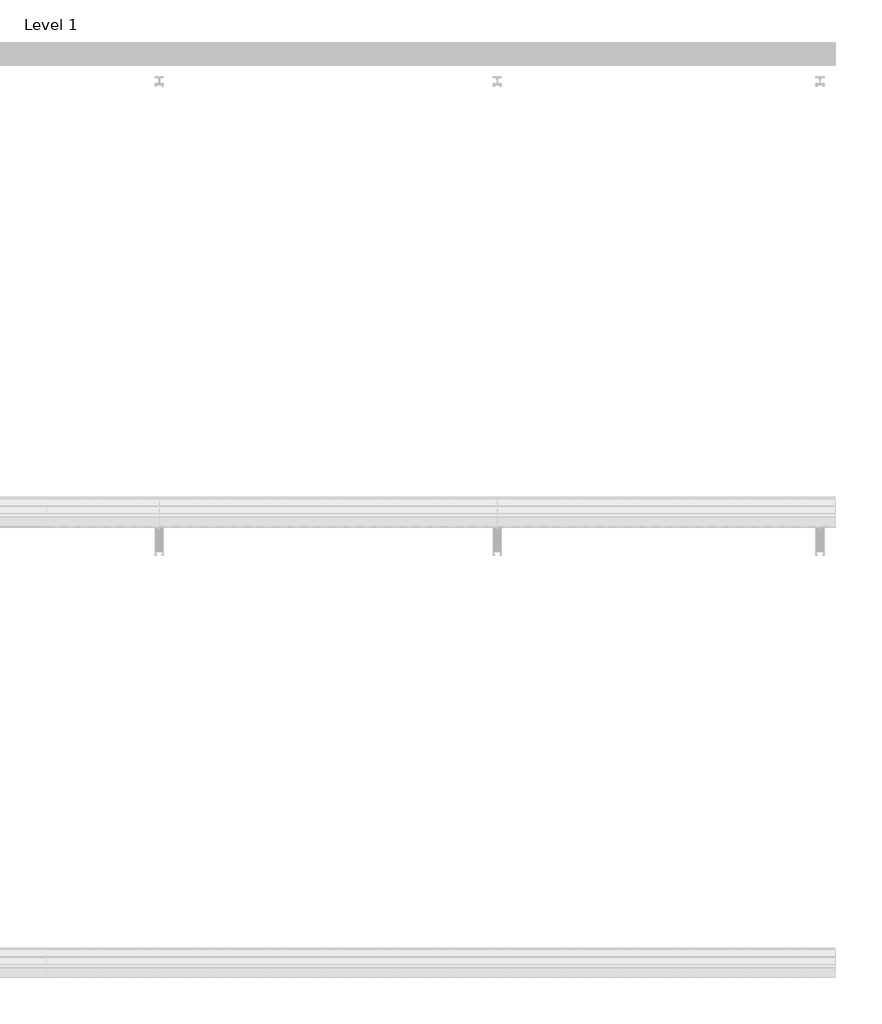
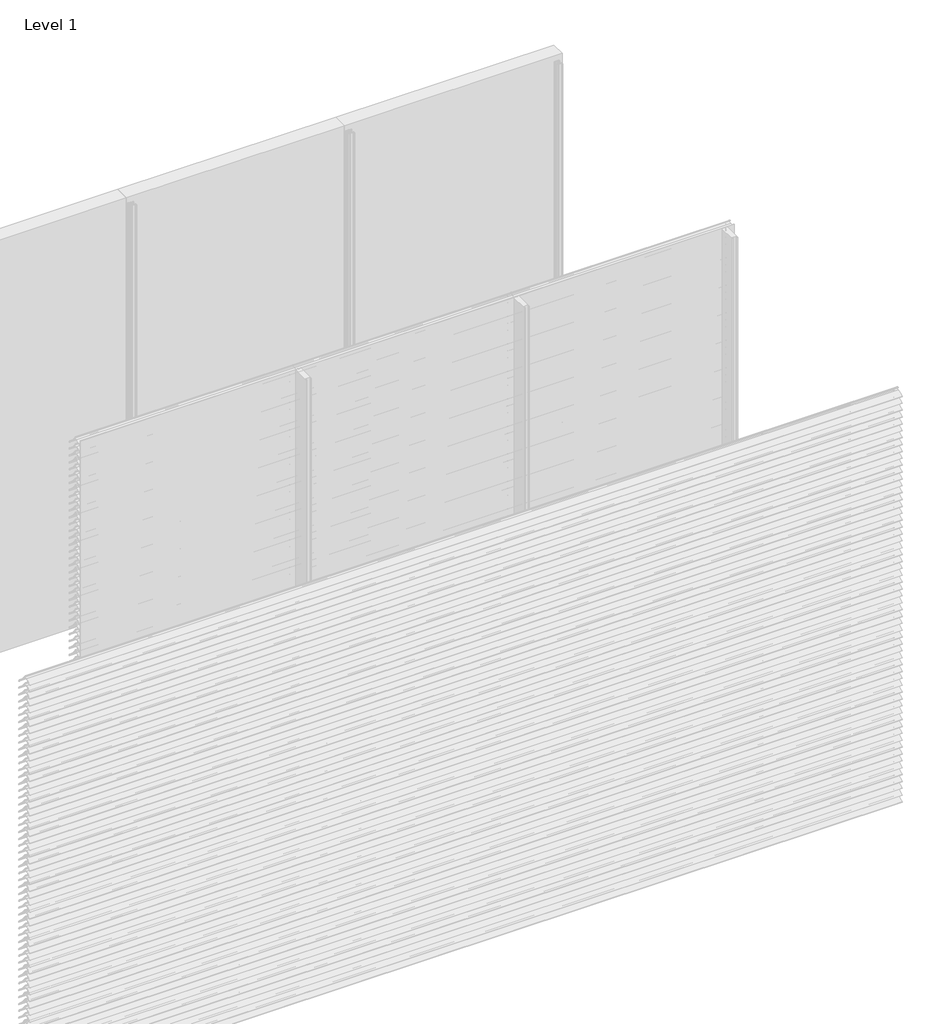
# One storey, part 36 of 173: 18 proxies.
"""IFC4 building model written with IfcOpenShell, lengths in millimetres."""

from ifc_helpers import new_model, si_unit, point, frame, frame_2d, origin, place, context, project, spatial, polyline, circle_curve, trimmed, segment, composite_curve, outline, extrude, element, save

model = new_model("IFC4")

# Units and contexts
model_context = context("Model", 3, world=origin())
ifc_project = project(units=[si_unit("LENGTHUNIT", "METRE", prefix="MILLI")], contexts=[model_context])

# Site, building, storey
site = spatial("IfcSite", under=ifc_project)
building = spatial("IfcBuilding", under=site)
storey = spatial("IfcBuildingStorey", under=building, Name="Level 1", Elevation=0.0)

# Proxies
placement = place(None, origin())
element("IfcBuildingElementProxy", 1, Name="Wall Sweeps", at=placement, inside=storey, context=model_context, shape_type="SweptSolid", body=[
    extrude(outline(composite_curve([segment(polyline([(-47998.0, 1109.1474905), (-47998.0, 1111.6227417)]), True, "CONTINUOUS"), segment(trimmed(circle_curve(frame_2d((-47951.2682172, 1066.2200208)), 65.1557103), [point((-47998.0, 1111.6227417))], [point((-47954.4014323, 1131.3003524))], False, "CARTESIAN"), True, "CONTINUOUS"), segment(polyline([(-47954.4014323, 1131.3003524), (-47934.8315836, 1131.3003524)]), True, "CONTINUOUS"), segment(trimmed(circle_curve(frame_2d((-47732.7329489, 1278.5533172)), 250.0545817), [point((-47934.8315836, 1131.3003524))], [point((-47941.4452143, 1140.8344583))], False, "CARTESIAN"), True, "CONTINUOUS"), segment(trimmed(circle_curve(frame_2d((-47953.2981792, 1135.1737835)), 13.1352966), [point((-47941.4452143, 1140.8344583))], [point((-47953.8171475, 1148.298824))], True, "CARTESIAN"), True, "CONTINUOUS"), segment(polyline([(-47953.8171475, 1148.298824), (-47953.8171475, 1150.0)]), True, "CONTINUOUS"), segment(trimmed(circle_curve(frame_2d((-47953.2981792, 1135.1737835)), 14.8352966), [point((-47953.8171475, 1150.0))], [point((-47939.9637661, 1141.6760487))], False, "CARTESIAN"), True, "CONTINUOUS"), segment(trimmed(circle_curve(frame_2d((-47732.7329489, 1278.5533172)), 248.3545817), [point((-47939.9637661, 1141.6760487))], [point((-47873.8787895, 1074.2059416))], True, "CARTESIAN"), True, "CONTINUOUS"), segment(trimmed(circle_curve(frame_2d((-47883.8147537, 1061.6649442)), 16.0), [point((-47873.8787895, 1074.2059416))], [point((-47867.8648347, 1060.4))], False, "CARTESIAN"), True, "CONTINUOUS"), segment(polyline([(-47867.8648347, 1060.4), (-47869.6712069, 1060.4)]), True, "CONTINUOUS"), segment(trimmed(circle_curve(frame_2d((-47883.8147537, 1061.6649442)), 14.2), [point((-47869.6712069, 1060.4))], [point((-47874.9518628, 1072.7594998))], True, "CARTESIAN"), True, "CONTINUOUS"), segment(trimmed(circle_curve(frame_2d((-47732.7329489, 1278.5533172)), 250.1545817), [point((-47874.9518628, 1072.7594998))], [point((-47933.7064024, 1129.6003524))], False, "CARTESIAN"), True, "CONTINUOUS"), segment(polyline([(-47933.7064024, 1129.6003524), (-47954.3602632, 1129.6003524)]), True, "CONTINUOUS"), segment(trimmed(circle_curve(frame_2d((-47951.2682172, 1066.2200208)), 63.4557103), [point((-47954.3602632, 1129.6003524))], [point((-47998.0, 1109.1474905))], True, "CARTESIAN"), True, "CONTINUOUS")], self_intersect=False)), frame((4500.0, 0.0, 0.0), z_axis=(1.0, 0.0, 0.0), x_axis=(0.0, 1.0, 0.0)), (0.0, 0.0, 1.0), 1500.0),
])
element("IfcBuildingElementProxy", 2, Name="Wall Sweeps", at=placement, inside=storey, context=model_context, shape_type="SweptSolid", body=[
    extrude(outline(composite_curve([segment(polyline([(-47998.0, 1059.1474905), (-47998.0, 1061.6227417)]), True, "CONTINUOUS"), segment(trimmed(circle_curve(frame_2d((-47951.2682172, 1016.2200208)), 65.1557103), [point((-47998.0, 1061.6227417))], [point((-47954.4014323, 1081.3003524))], False, "CARTESIAN"), True, "CONTINUOUS"), segment(polyline([(-47954.4014323, 1081.3003524), (-47934.8315836, 1081.3003524)]), True, "CONTINUOUS"), segment(trimmed(circle_curve(frame_2d((-47732.7329489, 1228.5533172)), 250.0545817), [point((-47934.8315836, 1081.3003524))], [point((-47941.4452143, 1090.8344583))], False, "CARTESIAN"), True, "CONTINUOUS"), segment(trimmed(circle_curve(frame_2d((-47953.2981792, 1085.1737835)), 13.1352966), [point((-47941.4452143, 1090.8344583))], [point((-47953.8171475, 1098.298824))], True, "CARTESIAN"), True, "CONTINUOUS"), segment(polyline([(-47953.8171475, 1098.298824), (-47953.8171475, 1100.0)]), True, "CONTINUOUS"), segment(trimmed(circle_curve(frame_2d((-47953.2981792, 1085.1737835)), 14.8352966), [point((-47953.8171475, 1100.0))], [point((-47939.9637661, 1091.6760487))], False, "CARTESIAN"), True, "CONTINUOUS"), segment(trimmed(circle_curve(frame_2d((-47732.7329489, 1228.5533172)), 248.3545817), [point((-47939.9637661, 1091.6760487))], [point((-47873.8787895, 1024.2059416))], True, "CARTESIAN"), True, "CONTINUOUS"), segment(trimmed(circle_curve(frame_2d((-47883.8147537, 1011.6649442)), 16.0), [point((-47873.8787895, 1024.2059416))], [point((-47867.8648347, 1010.4))], False, "CARTESIAN"), True, "CONTINUOUS"), segment(polyline([(-47867.8648347, 1010.4), (-47869.6712069, 1010.4)]), True, "CONTINUOUS"), segment(trimmed(circle_curve(frame_2d((-47883.8147537, 1011.6649442)), 14.2), [point((-47869.6712069, 1010.4))], [point((-47874.9518628, 1022.7594998))], True, "CARTESIAN"), True, "CONTINUOUS"), segment(trimmed(circle_curve(frame_2d((-47732.7329489, 1228.5533172)), 250.1545817), [point((-47874.9518628, 1022.7594998))], [point((-47933.7064024, 1079.6003524))], False, "CARTESIAN"), True, "CONTINUOUS"), segment(polyline([(-47933.7064024, 1079.6003524), (-47954.3602632, 1079.6003524)]), True, "CONTINUOUS"), segment(trimmed(circle_curve(frame_2d((-47951.2682172, 1016.2200208)), 63.4557103), [point((-47954.3602632, 1079.6003524))], [point((-47998.0, 1059.1474905))], True, "CARTESIAN"), True, "CONTINUOUS")], self_intersect=False)), frame((4500.0, 0.0, 0.0), z_axis=(1.0, 0.0, 0.0), x_axis=(0.0, 1.0, 0.0)), (0.0, 0.0, 1.0), 1500.0),
])
element("IfcBuildingElementProxy", 3, Name="Wall Sweeps", at=placement, inside=storey, context=model_context, shape_type="SweptSolid", body=[
    extrude(outline(composite_curve([segment(polyline([(-47998.0, 1009.1474905), (-47998.0, 1011.6227417)]), True, "CONTINUOUS"), segment(trimmed(circle_curve(frame_2d((-47951.2682172, 966.2200208)), 65.1557103), [point((-47998.0, 1011.6227417))], [point((-47954.4014323, 1031.3003524))], False, "CARTESIAN"), True, "CONTINUOUS"), segment(polyline([(-47954.4014323, 1031.3003524), (-47934.8315836, 1031.3003524)]), True, "CONTINUOUS"), segment(trimmed(circle_curve(frame_2d((-47732.7329489, 1178.5533172)), 250.0545817), [point((-47934.8315836, 1031.3003524))], [point((-47941.4452143, 1040.8344583))], False, "CARTESIAN"), True, "CONTINUOUS"), segment(trimmed(circle_curve(frame_2d((-47953.2981792, 1035.1737835)), 13.1352966), [point((-47941.4452143, 1040.8344583))], [point((-47953.8171475, 1048.298824))], True, "CARTESIAN"), True, "CONTINUOUS"), segment(polyline([(-47953.8171475, 1048.298824), (-47953.8171475, 1050.0)]), True, "CONTINUOUS"), segment(trimmed(circle_curve(frame_2d((-47953.2981792, 1035.1737835)), 14.8352966), [point((-47953.8171475, 1050.0))], [point((-47939.9637661, 1041.6760487))], False, "CARTESIAN"), True, "CONTINUOUS"), segment(trimmed(circle_curve(frame_2d((-47732.7329489, 1178.5533172)), 248.3545817), [point((-47939.9637661, 1041.6760487))], [point((-47873.8787895, 974.2059416))], True, "CARTESIAN"), True, "CONTINUOUS"), segment(trimmed(circle_curve(frame_2d((-47883.8147537, 961.6649442)), 16.0), [point((-47873.8787895, 974.2059416))], [point((-47867.8648347, 960.4))], False, "CARTESIAN"), True, "CONTINUOUS"), segment(polyline([(-47867.8648347, 960.4), (-47869.6712069, 960.4)]), True, "CONTINUOUS"), segment(trimmed(circle_curve(frame_2d((-47883.8147537, 961.6649442)), 14.2), [point((-47869.6712069, 960.4))], [point((-47874.9518628, 972.7594998))], True, "CARTESIAN"), True, "CONTINUOUS"), segment(trimmed(circle_curve(frame_2d((-47732.7329489, 1178.5533172)), 250.1545817), [point((-47874.9518628, 972.7594998))], [point((-47933.7064024, 1029.6003524))], False, "CARTESIAN"), True, "CONTINUOUS"), segment(polyline([(-47933.7064024, 1029.6003524), (-47954.3602632, 1029.6003524)]), True, "CONTINUOUS"), segment(trimmed(circle_curve(frame_2d((-47951.2682172, 966.2200208)), 63.4557103), [point((-47954.3602632, 1029.6003524))], [point((-47998.0, 1009.1474905))], True, "CARTESIAN"), True, "CONTINUOUS")], self_intersect=False)), frame((4500.0, 0.0, 0.0), z_axis=(1.0, 0.0, 0.0), x_axis=(0.0, 1.0, 0.0)), (0.0, 0.0, 1.0), 1500.0),
])
element("IfcBuildingElementProxy", 4, Name="Wall Sweeps", at=placement, inside=storey, context=model_context, shape_type="SweptSolid", body=[
    extrude(outline(composite_curve([segment(polyline([(-47998.0, 959.1474905), (-47998.0, 961.6227417)]), True, "CONTINUOUS"), segment(trimmed(circle_curve(frame_2d((-47951.2682172, 916.2200208)), 65.1557103), [point((-47998.0, 961.6227417))], [point((-47954.4014323, 981.3003524))], False, "CARTESIAN"), True, "CONTINUOUS"), segment(polyline([(-47954.4014323, 981.3003524), (-47934.8315836, 981.3003524)]), True, "CONTINUOUS"), segment(trimmed(circle_curve(frame_2d((-47732.7329489, 1128.5533172)), 250.0545817), [point((-47934.8315836, 981.3003524))], [point((-47941.4452143, 990.8344583))], False, "CARTESIAN"), True, "CONTINUOUS"), segment(trimmed(circle_curve(frame_2d((-47953.2981792, 985.1737835)), 13.1352966), [point((-47941.4452143, 990.8344583))], [point((-47953.8171475, 998.298824))], True, "CARTESIAN"), True, "CONTINUOUS"), segment(polyline([(-47953.8171475, 998.298824), (-47953.8171475, 1000.0)]), True, "CONTINUOUS"), segment(trimmed(circle_curve(frame_2d((-47953.2981792, 985.1737835)), 14.8352966), [point((-47953.8171475, 1000.0))], [point((-47939.9637661, 991.6760487))], False, "CARTESIAN"), True, "CONTINUOUS"), segment(trimmed(circle_curve(frame_2d((-47732.7329489, 1128.5533172)), 248.3545817), [point((-47939.9637661, 991.6760487))], [point((-47873.8787895, 924.2059416))], True, "CARTESIAN"), True, "CONTINUOUS"), segment(trimmed(circle_curve(frame_2d((-47883.8147537, 911.6649442)), 16.0), [point((-47873.8787895, 924.2059416))], [point((-47867.8648347, 910.4))], False, "CARTESIAN"), True, "CONTINUOUS"), segment(polyline([(-47867.8648347, 910.4), (-47869.6712069, 910.4)]), True, "CONTINUOUS"), segment(trimmed(circle_curve(frame_2d((-47883.8147537, 911.6649442)), 14.2), [point((-47869.6712069, 910.4))], [point((-47874.9518628, 922.7594998))], True, "CARTESIAN"), True, "CONTINUOUS"), segment(trimmed(circle_curve(frame_2d((-47732.7329489, 1128.5533172)), 250.1545817), [point((-47874.9518628, 922.7594998))], [point((-47933.7064024, 979.6003524))], False, "CARTESIAN"), True, "CONTINUOUS"), segment(polyline([(-47933.7064024, 979.6003524), (-47954.3602632, 979.6003524)]), True, "CONTINUOUS"), segment(trimmed(circle_curve(frame_2d((-47951.2682172, 916.2200208)), 63.4557103), [point((-47954.3602632, 979.6003524))], [point((-47998.0, 959.1474905))], True, "CARTESIAN"), True, "CONTINUOUS")], self_intersect=False)), frame((4500.0, 0.0, 0.0), z_axis=(1.0, 0.0, 0.0), x_axis=(0.0, 1.0, 0.0)), (0.0, 0.0, 1.0), 1500.0),
])
element("IfcBuildingElementProxy", 5, Name="Wall Sweeps", at=placement, inside=storey, context=model_context, shape_type="SweptSolid", body=[
    extrude(outline(composite_curve([segment(polyline([(-47998.0, 909.1474905), (-47998.0, 911.6227417)]), True, "CONTINUOUS"), segment(trimmed(circle_curve(frame_2d((-47951.2682172, 866.2200208)), 65.1557103), [point((-47998.0, 911.6227417))], [point((-47954.4014323, 931.3003524))], False, "CARTESIAN"), True, "CONTINUOUS"), segment(polyline([(-47954.4014323, 931.3003524), (-47934.8315836, 931.3003524)]), True, "CONTINUOUS"), segment(trimmed(circle_curve(frame_2d((-47732.7329489, 1078.5533172)), 250.0545817), [point((-47934.8315836, 931.3003524))], [point((-47941.4452143, 940.8344583))], False, "CARTESIAN"), True, "CONTINUOUS"), segment(trimmed(circle_curve(frame_2d((-47953.2981792, 935.1737835)), 13.1352966), [point((-47941.4452143, 940.8344583))], [point((-47953.8171475, 948.298824))], True, "CARTESIAN"), True, "CONTINUOUS"), segment(polyline([(-47953.8171475, 948.298824), (-47953.8171475, 950.0)]), True, "CONTINUOUS"), segment(trimmed(circle_curve(frame_2d((-47953.2981792, 935.1737835)), 14.8352966), [point((-47953.8171475, 950.0))], [point((-47939.9637661, 941.6760487))], False, "CARTESIAN"), True, "CONTINUOUS"), segment(trimmed(circle_curve(frame_2d((-47732.7329489, 1078.5533172)), 248.3545817), [point((-47939.9637661, 941.6760487))], [point((-47873.8787895, 874.2059416))], True, "CARTESIAN"), True, "CONTINUOUS"), segment(trimmed(circle_curve(frame_2d((-47883.8147537, 861.6649442)), 16.0), [point((-47873.8787895, 874.2059416))], [point((-47867.8648347, 860.4))], False, "CARTESIAN"), True, "CONTINUOUS"), segment(polyline([(-47867.8648347, 860.4), (-47869.6712069, 860.4)]), True, "CONTINUOUS"), segment(trimmed(circle_curve(frame_2d((-47883.8147537, 861.6649442)), 14.2), [point((-47869.6712069, 860.4))], [point((-47874.9518628, 872.7594998))], True, "CARTESIAN"), True, "CONTINUOUS"), segment(trimmed(circle_curve(frame_2d((-47732.7329489, 1078.5533172)), 250.1545817), [point((-47874.9518628, 872.7594998))], [point((-47933.7064024, 929.6003524))], False, "CARTESIAN"), True, "CONTINUOUS"), segment(polyline([(-47933.7064024, 929.6003524), (-47954.3602632, 929.6003524)]), True, "CONTINUOUS"), segment(trimmed(circle_curve(frame_2d((-47951.2682172, 866.2200208)), 63.4557103), [point((-47954.3602632, 929.6003524))], [point((-47998.0, 909.1474905))], True, "CARTESIAN"), True, "CONTINUOUS")], self_intersect=False)), frame((4500.0, 0.0, 0.0), z_axis=(1.0, 0.0, 0.0), x_axis=(0.0, 1.0, 0.0)), (0.0, 0.0, 1.0), 1500.0),
])
element("IfcBuildingElementProxy", 6, Name="Wall Sweeps", at=placement, inside=storey, context=model_context, shape_type="SweptSolid", body=[
    extrude(outline(composite_curve([segment(polyline([(-47998.0, 859.1474905), (-47998.0, 861.6227417)]), True, "CONTINUOUS"), segment(trimmed(circle_curve(frame_2d((-47951.2682172, 816.2200208)), 65.1557103), [point((-47998.0, 861.6227417))], [point((-47954.4014323, 881.3003524))], False, "CARTESIAN"), True, "CONTINUOUS"), segment(polyline([(-47954.4014323, 881.3003524), (-47934.8315836, 881.3003524)]), True, "CONTINUOUS"), segment(trimmed(circle_curve(frame_2d((-47732.7329489, 1028.5533172)), 250.0545817), [point((-47934.8315836, 881.3003524))], [point((-47941.4452143, 890.8344583))], False, "CARTESIAN"), True, "CONTINUOUS"), segment(trimmed(circle_curve(frame_2d((-47953.2981792, 885.1737835)), 13.1352966), [point((-47941.4452143, 890.8344583))], [point((-47953.8171475, 898.298824))], True, "CARTESIAN"), True, "CONTINUOUS"), segment(polyline([(-47953.8171475, 898.298824), (-47953.8171475, 900.0)]), True, "CONTINUOUS"), segment(trimmed(circle_curve(frame_2d((-47953.2981792, 885.1737835)), 14.8352966), [point((-47953.8171475, 900.0))], [point((-47939.9637661, 891.6760487))], False, "CARTESIAN"), True, "CONTINUOUS"), segment(trimmed(circle_curve(frame_2d((-47732.7329489, 1028.5533172)), 248.3545817), [point((-47939.9637661, 891.6760487))], [point((-47873.8787895, 824.2059416))], True, "CARTESIAN"), True, "CONTINUOUS"), segment(trimmed(circle_curve(frame_2d((-47883.8147537, 811.6649442)), 16.0), [point((-47873.8787895, 824.2059416))], [point((-47867.8648347, 810.4))], False, "CARTESIAN"), True, "CONTINUOUS"), segment(polyline([(-47867.8648347, 810.4), (-47869.6712069, 810.4)]), True, "CONTINUOUS"), segment(trimmed(circle_curve(frame_2d((-47883.8147537, 811.6649442)), 14.2), [point((-47869.6712069, 810.4))], [point((-47874.9518628, 822.7594998))], True, "CARTESIAN"), True, "CONTINUOUS"), segment(trimmed(circle_curve(frame_2d((-47732.7329489, 1028.5533172)), 250.1545817), [point((-47874.9518628, 822.7594998))], [point((-47933.7064024, 879.6003524))], False, "CARTESIAN"), True, "CONTINUOUS"), segment(polyline([(-47933.7064024, 879.6003524), (-47954.3602632, 879.6003524)]), True, "CONTINUOUS"), segment(trimmed(circle_curve(frame_2d((-47951.2682172, 816.2200208)), 63.4557103), [point((-47954.3602632, 879.6003524))], [point((-47998.0, 859.1474905))], True, "CARTESIAN"), True, "CONTINUOUS")], self_intersect=False)), frame((4500.0, 0.0, 0.0), z_axis=(1.0, 0.0, 0.0), x_axis=(0.0, 1.0, 0.0)), (0.0, 0.0, 1.0), 1500.0),
])
element("IfcBuildingElementProxy", 7, Name="Wall Sweeps", at=placement, inside=storey, context=model_context, shape_type="SweptSolid", body=[
    extrude(outline(composite_curve([segment(polyline([(-47998.0, 809.1474905), (-47998.0, 811.6227417)]), True, "CONTINUOUS"), segment(trimmed(circle_curve(frame_2d((-47951.2682172, 766.2200208)), 65.1557103), [point((-47998.0, 811.6227417))], [point((-47954.4014323, 831.3003524))], False, "CARTESIAN"), True, "CONTINUOUS"), segment(polyline([(-47954.4014323, 831.3003524), (-47934.8315836, 831.3003524)]), True, "CONTINUOUS"), segment(trimmed(circle_curve(frame_2d((-47732.7329489, 978.5533172)), 250.0545817), [point((-47934.8315836, 831.3003524))], [point((-47941.4452143, 840.8344583))], False, "CARTESIAN"), True, "CONTINUOUS"), segment(trimmed(circle_curve(frame_2d((-47953.2981792, 835.1737835)), 13.1352966), [point((-47941.4452143, 840.8344583))], [point((-47953.8171475, 848.298824))], True, "CARTESIAN"), True, "CONTINUOUS"), segment(polyline([(-47953.8171475, 848.298824), (-47953.8171475, 850.0)]), True, "CONTINUOUS"), segment(trimmed(circle_curve(frame_2d((-47953.2981792, 835.1737835)), 14.8352966), [point((-47953.8171475, 850.0))], [point((-47939.9637661, 841.6760487))], False, "CARTESIAN"), True, "CONTINUOUS"), segment(trimmed(circle_curve(frame_2d((-47732.7329489, 978.5533172)), 248.3545817), [point((-47939.9637661, 841.6760487))], [point((-47873.8787895, 774.2059416))], True, "CARTESIAN"), True, "CONTINUOUS"), segment(trimmed(circle_curve(frame_2d((-47883.8147537, 761.6649442)), 16.0), [point((-47873.8787895, 774.2059416))], [point((-47867.8648347, 760.4))], False, "CARTESIAN"), True, "CONTINUOUS"), segment(polyline([(-47867.8648347, 760.4), (-47869.6712069, 760.4)]), True, "CONTINUOUS"), segment(trimmed(circle_curve(frame_2d((-47883.8147537, 761.6649442)), 14.2), [point((-47869.6712069, 760.4))], [point((-47874.9518628, 772.7594998))], True, "CARTESIAN"), True, "CONTINUOUS"), segment(trimmed(circle_curve(frame_2d((-47732.7329489, 978.5533172)), 250.1545817), [point((-47874.9518628, 772.7594998))], [point((-47933.7064024, 829.6003524))], False, "CARTESIAN"), True, "CONTINUOUS"), segment(polyline([(-47933.7064024, 829.6003524), (-47954.3602632, 829.6003524)]), True, "CONTINUOUS"), segment(trimmed(circle_curve(frame_2d((-47951.2682172, 766.2200208)), 63.4557103), [point((-47954.3602632, 829.6003524))], [point((-47998.0, 809.1474905))], True, "CARTESIAN"), True, "CONTINUOUS")], self_intersect=False)), frame((4500.0, 0.0, 0.0), z_axis=(1.0, 0.0, 0.0), x_axis=(0.0, 1.0, 0.0)), (0.0, 0.0, 1.0), 1500.0),
])
element("IfcBuildingElementProxy", 8, Name="Wall Sweeps", at=placement, inside=storey, context=model_context, shape_type="SweptSolid", body=[
    extrude(outline(composite_curve([segment(polyline([(-47998.0, 759.1474905), (-47998.0, 761.6227417)]), True, "CONTINUOUS"), segment(trimmed(circle_curve(frame_2d((-47951.2682172, 716.2200208)), 65.1557103), [point((-47998.0, 761.6227417))], [point((-47954.4014323, 781.3003524))], False, "CARTESIAN"), True, "CONTINUOUS"), segment(polyline([(-47954.4014323, 781.3003524), (-47934.8315836, 781.3003524)]), True, "CONTINUOUS"), segment(trimmed(circle_curve(frame_2d((-47732.7329489, 928.5533172)), 250.0545817), [point((-47934.8315836, 781.3003524))], [point((-47941.4452143, 790.8344583))], False, "CARTESIAN"), True, "CONTINUOUS"), segment(trimmed(circle_curve(frame_2d((-47953.2981792, 785.1737835)), 13.1352966), [point((-47941.4452143, 790.8344583))], [point((-47953.8171475, 798.298824))], True, "CARTESIAN"), True, "CONTINUOUS"), segment(polyline([(-47953.8171475, 798.298824), (-47953.8171475, 800.0)]), True, "CONTINUOUS"), segment(trimmed(circle_curve(frame_2d((-47953.2981792, 785.1737835)), 14.8352966), [point((-47953.8171475, 800.0))], [point((-47939.9637661, 791.6760487))], False, "CARTESIAN"), True, "CONTINUOUS"), segment(trimmed(circle_curve(frame_2d((-47732.7329489, 928.5533172)), 248.3545817), [point((-47939.9637661, 791.6760487))], [point((-47873.8787895, 724.2059416))], True, "CARTESIAN"), True, "CONTINUOUS"), segment(trimmed(circle_curve(frame_2d((-47883.8147537, 711.6649442)), 16.0), [point((-47873.8787895, 724.2059416))], [point((-47867.8648347, 710.4))], False, "CARTESIAN"), True, "CONTINUOUS"), segment(polyline([(-47867.8648347, 710.4), (-47869.6712069, 710.4)]), True, "CONTINUOUS"), segment(trimmed(circle_curve(frame_2d((-47883.8147537, 711.6649442)), 14.2), [point((-47869.6712069, 710.4))], [point((-47874.9518628, 722.7594998))], True, "CARTESIAN"), True, "CONTINUOUS"), segment(trimmed(circle_curve(frame_2d((-47732.7329489, 928.5533172)), 250.1545817), [point((-47874.9518628, 722.7594998))], [point((-47933.7064024, 779.6003524))], False, "CARTESIAN"), True, "CONTINUOUS"), segment(polyline([(-47933.7064024, 779.6003524), (-47954.3602632, 779.6003524)]), True, "CONTINUOUS"), segment(trimmed(circle_curve(frame_2d((-47951.2682172, 716.2200208)), 63.4557103), [point((-47954.3602632, 779.6003524))], [point((-47998.0, 759.1474905))], True, "CARTESIAN"), True, "CONTINUOUS")], self_intersect=False)), frame((4500.0, 0.0, 0.0), z_axis=(1.0, 0.0, 0.0), x_axis=(0.0, 1.0, 0.0)), (0.0, 0.0, 1.0), 1500.0),
])
element("IfcBuildingElementProxy", 9, Name="Wall Sweeps", at=placement, inside=storey, context=model_context, shape_type="SweptSolid", body=[
    extrude(outline(composite_curve([segment(polyline([(-47998.0, 709.1474905), (-47998.0, 711.6227417)]), True, "CONTINUOUS"), segment(trimmed(circle_curve(frame_2d((-47951.2682172, 666.2200208)), 65.1557103), [point((-47998.0, 711.6227417))], [point((-47954.4014323, 731.3003524))], False, "CARTESIAN"), True, "CONTINUOUS"), segment(polyline([(-47954.4014323, 731.3003524), (-47934.8315836, 731.3003524)]), True, "CONTINUOUS"), segment(trimmed(circle_curve(frame_2d((-47732.7329489, 878.5533172)), 250.0545817), [point((-47934.8315836, 731.3003524))], [point((-47941.4452143, 740.8344583))], False, "CARTESIAN"), True, "CONTINUOUS"), segment(trimmed(circle_curve(frame_2d((-47953.2981792, 735.1737835)), 13.1352966), [point((-47941.4452143, 740.8344583))], [point((-47953.8171475, 748.298824))], True, "CARTESIAN"), True, "CONTINUOUS"), segment(polyline([(-47953.8171475, 748.298824), (-47953.8171475, 750.0)]), True, "CONTINUOUS"), segment(trimmed(circle_curve(frame_2d((-47953.2981792, 735.1737835)), 14.8352966), [point((-47953.8171475, 750.0))], [point((-47939.9637661, 741.6760487))], False, "CARTESIAN"), True, "CONTINUOUS"), segment(trimmed(circle_curve(frame_2d((-47732.7329489, 878.5533172)), 248.3545817), [point((-47939.9637661, 741.6760487))], [point((-47873.8787895, 674.2059416))], True, "CARTESIAN"), True, "CONTINUOUS"), segment(trimmed(circle_curve(frame_2d((-47883.8147537, 661.6649442)), 16.0), [point((-47873.8787895, 674.2059416))], [point((-47867.8648347, 660.4))], False, "CARTESIAN"), True, "CONTINUOUS"), segment(polyline([(-47867.8648347, 660.4), (-47869.6712069, 660.4)]), True, "CONTINUOUS"), segment(trimmed(circle_curve(frame_2d((-47883.8147537, 661.6649442)), 14.2), [point((-47869.6712069, 660.4))], [point((-47874.9518628, 672.7594998))], True, "CARTESIAN"), True, "CONTINUOUS"), segment(trimmed(circle_curve(frame_2d((-47732.7329489, 878.5533172)), 250.1545817), [point((-47874.9518628, 672.7594998))], [point((-47933.7064024, 729.6003524))], False, "CARTESIAN"), True, "CONTINUOUS"), segment(polyline([(-47933.7064024, 729.6003524), (-47954.3602632, 729.6003524)]), True, "CONTINUOUS"), segment(trimmed(circle_curve(frame_2d((-47951.2682172, 666.2200208)), 63.4557103), [point((-47954.3602632, 729.6003524))], [point((-47998.0, 709.1474905))], True, "CARTESIAN"), True, "CONTINUOUS")], self_intersect=False)), frame((4500.0, 0.0, 0.0), z_axis=(1.0, 0.0, 0.0), x_axis=(0.0, 1.0, 0.0)), (0.0, 0.0, 1.0), 1500.0),
])
element("IfcBuildingElementProxy", 10, Name="Wall Sweeps", at=placement, inside=storey, context=model_context, shape_type="SweptSolid", body=[
    extrude(outline(composite_curve([segment(polyline([(-47998.0, 659.1474905), (-47998.0, 661.6227417)]), True, "CONTINUOUS"), segment(trimmed(circle_curve(frame_2d((-47951.2682172, 616.2200208)), 65.1557103), [point((-47998.0, 661.6227417))], [point((-47954.4014323, 681.3003524))], False, "CARTESIAN"), True, "CONTINUOUS"), segment(polyline([(-47954.4014323, 681.3003524), (-47934.8315836, 681.3003524)]), True, "CONTINUOUS"), segment(trimmed(circle_curve(frame_2d((-47732.7329489, 828.5533172)), 250.0545817), [point((-47934.8315836, 681.3003524))], [point((-47941.4452143, 690.8344583))], False, "CARTESIAN"), True, "CONTINUOUS"), segment(trimmed(circle_curve(frame_2d((-47953.2981792, 685.1737835)), 13.1352966), [point((-47941.4452143, 690.8344583))], [point((-47953.8171475, 698.298824))], True, "CARTESIAN"), True, "CONTINUOUS"), segment(polyline([(-47953.8171475, 698.298824), (-47953.8171475, 700.0)]), True, "CONTINUOUS"), segment(trimmed(circle_curve(frame_2d((-47953.2981792, 685.1737835)), 14.8352966), [point((-47953.8171475, 700.0))], [point((-47939.9637661, 691.6760487))], False, "CARTESIAN"), True, "CONTINUOUS"), segment(trimmed(circle_curve(frame_2d((-47732.7329489, 828.5533172)), 248.3545817), [point((-47939.9637661, 691.6760487))], [point((-47873.8787895, 624.2059416))], True, "CARTESIAN"), True, "CONTINUOUS"), segment(trimmed(circle_curve(frame_2d((-47883.8147537, 611.6649442)), 16.0), [point((-47873.8787895, 624.2059416))], [point((-47867.8648347, 610.4))], False, "CARTESIAN"), True, "CONTINUOUS"), segment(polyline([(-47867.8648347, 610.4), (-47869.6712069, 610.4)]), True, "CONTINUOUS"), segment(trimmed(circle_curve(frame_2d((-47883.8147537, 611.6649442)), 14.2), [point((-47869.6712069, 610.4))], [point((-47874.9518628, 622.7594998))], True, "CARTESIAN"), True, "CONTINUOUS"), segment(trimmed(circle_curve(frame_2d((-47732.7329489, 828.5533172)), 250.1545817), [point((-47874.9518628, 622.7594998))], [point((-47933.7064024, 679.6003524))], False, "CARTESIAN"), True, "CONTINUOUS"), segment(polyline([(-47933.7064024, 679.6003524), (-47954.3602632, 679.6003524)]), True, "CONTINUOUS"), segment(trimmed(circle_curve(frame_2d((-47951.2682172, 616.2200208)), 63.4557103), [point((-47954.3602632, 679.6003524))], [point((-47998.0, 659.1474905))], True, "CARTESIAN"), True, "CONTINUOUS")], self_intersect=False)), frame((4500.0, 0.0, 0.0), z_axis=(1.0, 0.0, 0.0), x_axis=(0.0, 1.0, 0.0)), (0.0, 0.0, 1.0), 1500.0),
])
element("IfcBuildingElementProxy", 11, Name="Wall Sweeps", at=placement, inside=storey, context=model_context, shape_type="SweptSolid", body=[
    extrude(outline(composite_curve([segment(polyline([(-47998.0, 609.1474905), (-47998.0, 611.6227417)]), True, "CONTINUOUS"), segment(trimmed(circle_curve(frame_2d((-47951.2682172, 566.2200208)), 65.1557103), [point((-47998.0, 611.6227417))], [point((-47954.4014323, 631.3003524))], False, "CARTESIAN"), True, "CONTINUOUS"), segment(polyline([(-47954.4014323, 631.3003524), (-47934.8315836, 631.3003524)]), True, "CONTINUOUS"), segment(trimmed(circle_curve(frame_2d((-47732.7329489, 778.5533172)), 250.0545817), [point((-47934.8315836, 631.3003524))], [point((-47941.4452143, 640.8344583))], False, "CARTESIAN"), True, "CONTINUOUS"), segment(trimmed(circle_curve(frame_2d((-47953.2981792, 635.1737835)), 13.1352966), [point((-47941.4452143, 640.8344583))], [point((-47953.8171475, 648.298824))], True, "CARTESIAN"), True, "CONTINUOUS"), segment(polyline([(-47953.8171475, 648.298824), (-47953.8171475, 650.0)]), True, "CONTINUOUS"), segment(trimmed(circle_curve(frame_2d((-47953.2981792, 635.1737835)), 14.8352966), [point((-47953.8171475, 650.0))], [point((-47939.9637661, 641.6760487))], False, "CARTESIAN"), True, "CONTINUOUS"), segment(trimmed(circle_curve(frame_2d((-47732.7329489, 778.5533172)), 248.3545817), [point((-47939.9637661, 641.6760487))], [point((-47873.8787895, 574.2059416))], True, "CARTESIAN"), True, "CONTINUOUS"), segment(trimmed(circle_curve(frame_2d((-47883.8147537, 561.6649442)), 16.0), [point((-47873.8787895, 574.2059416))], [point((-47867.8648347, 560.4))], False, "CARTESIAN"), True, "CONTINUOUS"), segment(polyline([(-47867.8648347, 560.4), (-47869.6712069, 560.4)]), True, "CONTINUOUS"), segment(trimmed(circle_curve(frame_2d((-47883.8147537, 561.6649442)), 14.2), [point((-47869.6712069, 560.4))], [point((-47874.9518628, 572.7594998))], True, "CARTESIAN"), True, "CONTINUOUS"), segment(trimmed(circle_curve(frame_2d((-47732.7329489, 778.5533172)), 250.1545817), [point((-47874.9518628, 572.7594998))], [point((-47933.7064024, 629.6003524))], False, "CARTESIAN"), True, "CONTINUOUS"), segment(polyline([(-47933.7064024, 629.6003524), (-47954.3602632, 629.6003524)]), True, "CONTINUOUS"), segment(trimmed(circle_curve(frame_2d((-47951.2682172, 566.2200208)), 63.4557103), [point((-47954.3602632, 629.6003524))], [point((-47998.0, 609.1474905))], True, "CARTESIAN"), True, "CONTINUOUS")], self_intersect=False)), frame((4500.0, 0.0, 0.0), z_axis=(1.0, 0.0, 0.0), x_axis=(0.0, 1.0, 0.0)), (0.0, 0.0, 1.0), 1500.0),
])
element("IfcBuildingElementProxy", 12, Name="Wall Sweeps", at=placement, inside=storey, context=model_context, shape_type="SweptSolid", body=[
    extrude(outline(composite_curve([segment(polyline([(-47998.0, 559.1474905), (-47998.0, 561.6227417)]), True, "CONTINUOUS"), segment(trimmed(circle_curve(frame_2d((-47951.2682172, 516.2200208)), 65.1557103), [point((-47998.0, 561.6227417))], [point((-47954.4014323, 581.3003524))], False, "CARTESIAN"), True, "CONTINUOUS"), segment(polyline([(-47954.4014323, 581.3003524), (-47934.8315836, 581.3003524)]), True, "CONTINUOUS"), segment(trimmed(circle_curve(frame_2d((-47732.7329489, 728.5533172)), 250.0545817), [point((-47934.8315836, 581.3003524))], [point((-47941.4452143, 590.8344583))], False, "CARTESIAN"), True, "CONTINUOUS"), segment(trimmed(circle_curve(frame_2d((-47953.2981792, 585.1737835)), 13.1352966), [point((-47941.4452143, 590.8344583))], [point((-47953.8171475, 598.298824))], True, "CARTESIAN"), True, "CONTINUOUS"), segment(polyline([(-47953.8171475, 598.298824), (-47953.8171475, 600.0)]), True, "CONTINUOUS"), segment(trimmed(circle_curve(frame_2d((-47953.2981792, 585.1737835)), 14.8352966), [point((-47953.8171475, 600.0))], [point((-47939.9637661, 591.6760487))], False, "CARTESIAN"), True, "CONTINUOUS"), segment(trimmed(circle_curve(frame_2d((-47732.7329489, 728.5533172)), 248.3545817), [point((-47939.9637661, 591.6760487))], [point((-47873.8787895, 524.2059416))], True, "CARTESIAN"), True, "CONTINUOUS"), segment(trimmed(circle_curve(frame_2d((-47883.8147537, 511.6649442)), 16.0), [point((-47873.8787895, 524.2059416))], [point((-47867.8648347, 510.4))], False, "CARTESIAN"), True, "CONTINUOUS"), segment(polyline([(-47867.8648347, 510.4), (-47869.6712069, 510.4)]), True, "CONTINUOUS"), segment(trimmed(circle_curve(frame_2d((-47883.8147537, 511.6649442)), 14.2), [point((-47869.6712069, 510.4))], [point((-47874.9518628, 522.7594998))], True, "CARTESIAN"), True, "CONTINUOUS"), segment(trimmed(circle_curve(frame_2d((-47732.7329489, 728.5533172)), 250.1545817), [point((-47874.9518628, 522.7594998))], [point((-47933.7064024, 579.6003524))], False, "CARTESIAN"), True, "CONTINUOUS"), segment(polyline([(-47933.7064024, 579.6003524), (-47954.3602632, 579.6003524)]), True, "CONTINUOUS"), segment(trimmed(circle_curve(frame_2d((-47951.2682172, 516.2200208)), 63.4557103), [point((-47954.3602632, 579.6003524))], [point((-47998.0, 559.1474905))], True, "CARTESIAN"), True, "CONTINUOUS")], self_intersect=False)), frame((4500.0, 0.0, 0.0), z_axis=(1.0, 0.0, 0.0), x_axis=(0.0, 1.0, 0.0)), (0.0, 0.0, 1.0), 1500.0),
])
element("IfcBuildingElementProxy", 13, Name="Wall Sweeps", at=placement, inside=storey, context=model_context, shape_type="SweptSolid", body=[
    extrude(outline(composite_curve([segment(polyline([(-47998.0, 509.1474905), (-47998.0, 511.6227417)]), True, "CONTINUOUS"), segment(trimmed(circle_curve(frame_2d((-47951.2682172, 466.2200208)), 65.1557103), [point((-47998.0, 511.6227417))], [point((-47954.4014323, 531.3003524))], False, "CARTESIAN"), True, "CONTINUOUS"), segment(polyline([(-47954.4014323, 531.3003524), (-47934.8315836, 531.3003524)]), True, "CONTINUOUS"), segment(trimmed(circle_curve(frame_2d((-47732.7329489, 678.5533172)), 250.0545817), [point((-47934.8315836, 531.3003524))], [point((-47941.4452143, 540.8344583))], False, "CARTESIAN"), True, "CONTINUOUS"), segment(trimmed(circle_curve(frame_2d((-47953.2981792, 535.1737835)), 13.1352966), [point((-47941.4452143, 540.8344583))], [point((-47953.8171475, 548.298824))], True, "CARTESIAN"), True, "CONTINUOUS"), segment(polyline([(-47953.8171475, 548.298824), (-47953.8171475, 550.0)]), True, "CONTINUOUS"), segment(trimmed(circle_curve(frame_2d((-47953.2981792, 535.1737835)), 14.8352966), [point((-47953.8171475, 550.0))], [point((-47939.9637661, 541.6760487))], False, "CARTESIAN"), True, "CONTINUOUS"), segment(trimmed(circle_curve(frame_2d((-47732.7329489, 678.5533172)), 248.3545817), [point((-47939.9637661, 541.6760487))], [point((-47873.8787895, 474.2059416))], True, "CARTESIAN"), True, "CONTINUOUS"), segment(trimmed(circle_curve(frame_2d((-47883.8147537, 461.6649442)), 16.0), [point((-47873.8787895, 474.2059416))], [point((-47867.8648347, 460.4))], False, "CARTESIAN"), True, "CONTINUOUS"), segment(polyline([(-47867.8648347, 460.4), (-47869.6712069, 460.4)]), True, "CONTINUOUS"), segment(trimmed(circle_curve(frame_2d((-47883.8147537, 461.6649442)), 14.2), [point((-47869.6712069, 460.4))], [point((-47874.9518628, 472.7594998))], True, "CARTESIAN"), True, "CONTINUOUS"), segment(trimmed(circle_curve(frame_2d((-47732.7329489, 678.5533172)), 250.1545817), [point((-47874.9518628, 472.7594998))], [point((-47933.7064024, 529.6003524))], False, "CARTESIAN"), True, "CONTINUOUS"), segment(polyline([(-47933.7064024, 529.6003524), (-47954.3602632, 529.6003524)]), True, "CONTINUOUS"), segment(trimmed(circle_curve(frame_2d((-47951.2682172, 466.2200208)), 63.4557103), [point((-47954.3602632, 529.6003524))], [point((-47998.0, 509.1474905))], True, "CARTESIAN"), True, "CONTINUOUS")], self_intersect=False)), frame((4500.0, 0.0, 0.0), z_axis=(1.0, 0.0, 0.0), x_axis=(0.0, 1.0, 0.0)), (0.0, 0.0, 1.0), 1500.0),
])
element("IfcBuildingElementProxy", 14, Name="Wall Sweeps", at=placement, inside=storey, context=model_context, shape_type="SweptSolid", body=[
    extrude(outline(composite_curve([segment(polyline([(-47998.0, 459.1474905), (-47998.0, 461.6227417)]), True, "CONTINUOUS"), segment(trimmed(circle_curve(frame_2d((-47951.2682172, 416.2200208)), 65.1557103), [point((-47998.0, 461.6227417))], [point((-47954.4014323, 481.3003524))], False, "CARTESIAN"), True, "CONTINUOUS"), segment(polyline([(-47954.4014323, 481.3003524), (-47934.8315836, 481.3003524)]), True, "CONTINUOUS"), segment(trimmed(circle_curve(frame_2d((-47732.7329489, 628.5533172)), 250.0545817), [point((-47934.8315836, 481.3003524))], [point((-47941.4452143, 490.8344583))], False, "CARTESIAN"), True, "CONTINUOUS"), segment(trimmed(circle_curve(frame_2d((-47953.2981792, 485.1737835)), 13.1352966), [point((-47941.4452143, 490.8344583))], [point((-47953.8171475, 498.298824))], True, "CARTESIAN"), True, "CONTINUOUS"), segment(polyline([(-47953.8171475, 498.298824), (-47953.8171475, 500.0)]), True, "CONTINUOUS"), segment(trimmed(circle_curve(frame_2d((-47953.2981792, 485.1737835)), 14.8352966), [point((-47953.8171475, 500.0))], [point((-47939.9637661, 491.6760487))], False, "CARTESIAN"), True, "CONTINUOUS"), segment(trimmed(circle_curve(frame_2d((-47732.7329489, 628.5533172)), 248.3545817), [point((-47939.9637661, 491.6760487))], [point((-47873.8787895, 424.2059416))], True, "CARTESIAN"), True, "CONTINUOUS"), segment(trimmed(circle_curve(frame_2d((-47883.8147537, 411.6649442)), 16.0), [point((-47873.8787895, 424.2059416))], [point((-47867.8648347, 410.4))], False, "CARTESIAN"), True, "CONTINUOUS"), segment(polyline([(-47867.8648347, 410.4), (-47869.6712069, 410.4)]), True, "CONTINUOUS"), segment(trimmed(circle_curve(frame_2d((-47883.8147537, 411.6649442)), 14.2), [point((-47869.6712069, 410.4))], [point((-47874.9518628, 422.7594998))], True, "CARTESIAN"), True, "CONTINUOUS"), segment(trimmed(circle_curve(frame_2d((-47732.7329489, 628.5533172)), 250.1545817), [point((-47874.9518628, 422.7594998))], [point((-47933.7064024, 479.6003524))], False, "CARTESIAN"), True, "CONTINUOUS"), segment(polyline([(-47933.7064024, 479.6003524), (-47954.3602632, 479.6003524)]), True, "CONTINUOUS"), segment(trimmed(circle_curve(frame_2d((-47951.2682172, 416.2200208)), 63.4557103), [point((-47954.3602632, 479.6003524))], [point((-47998.0, 459.1474905))], True, "CARTESIAN"), True, "CONTINUOUS")], self_intersect=False)), frame((4500.0, 0.0, 0.0), z_axis=(1.0, 0.0, 0.0), x_axis=(0.0, 1.0, 0.0)), (0.0, 0.0, 1.0), 1500.0),
])
element("IfcBuildingElementProxy", 15, Name="Wall Sweeps", at=placement, inside=storey, context=model_context, shape_type="SweptSolid", body=[
    extrude(outline(composite_curve([segment(polyline([(-47998.0, 409.1474905), (-47998.0, 411.6227417)]), True, "CONTINUOUS"), segment(trimmed(circle_curve(frame_2d((-47951.2682172, 366.2200208)), 65.1557103), [point((-47998.0, 411.6227417))], [point((-47954.4014323, 431.3003524))], False, "CARTESIAN"), True, "CONTINUOUS"), segment(polyline([(-47954.4014323, 431.3003524), (-47934.8315836, 431.3003524)]), True, "CONTINUOUS"), segment(trimmed(circle_curve(frame_2d((-47732.7329489, 578.5533172)), 250.0545817), [point((-47934.8315836, 431.3003524))], [point((-47941.4452143, 440.8344583))], False, "CARTESIAN"), True, "CONTINUOUS"), segment(trimmed(circle_curve(frame_2d((-47953.2981792, 435.1737835)), 13.1352966), [point((-47941.4452143, 440.8344583))], [point((-47953.8171475, 448.298824))], True, "CARTESIAN"), True, "CONTINUOUS"), segment(polyline([(-47953.8171475, 448.298824), (-47953.8171475, 450.0)]), True, "CONTINUOUS"), segment(trimmed(circle_curve(frame_2d((-47953.2981792, 435.1737835)), 14.8352966), [point((-47953.8171475, 450.0))], [point((-47939.9637661, 441.6760487))], False, "CARTESIAN"), True, "CONTINUOUS"), segment(trimmed(circle_curve(frame_2d((-47732.7329489, 578.5533172)), 248.3545817), [point((-47939.9637661, 441.6760487))], [point((-47873.8787895, 374.2059416))], True, "CARTESIAN"), True, "CONTINUOUS"), segment(trimmed(circle_curve(frame_2d((-47883.8147537, 361.6649442)), 16.0), [point((-47873.8787895, 374.2059416))], [point((-47867.8648347, 360.4))], False, "CARTESIAN"), True, "CONTINUOUS"), segment(polyline([(-47867.8648347, 360.4), (-47869.6712069, 360.4)]), True, "CONTINUOUS"), segment(trimmed(circle_curve(frame_2d((-47883.8147537, 361.6649442)), 14.2), [point((-47869.6712069, 360.4))], [point((-47874.9518628, 372.7594998))], True, "CARTESIAN"), True, "CONTINUOUS"), segment(trimmed(circle_curve(frame_2d((-47732.7329489, 578.5533172)), 250.1545817), [point((-47874.9518628, 372.7594998))], [point((-47933.7064024, 429.6003524))], False, "CARTESIAN"), True, "CONTINUOUS"), segment(polyline([(-47933.7064024, 429.6003524), (-47954.3602632, 429.6003524)]), True, "CONTINUOUS"), segment(trimmed(circle_curve(frame_2d((-47951.2682172, 366.2200208)), 63.4557103), [point((-47954.3602632, 429.6003524))], [point((-47998.0, 409.1474905))], True, "CARTESIAN"), True, "CONTINUOUS")], self_intersect=False)), frame((4500.0, 0.0, 0.0), z_axis=(1.0, 0.0, 0.0), x_axis=(0.0, 1.0, 0.0)), (0.0, 0.0, 1.0), 1500.0),
])
element("IfcBuildingElementProxy", 16, Name="Wall Sweeps", at=placement, inside=storey, context=model_context, shape_type="SweptSolid", body=[
    extrude(outline(composite_curve([segment(polyline([(-47998.0, 359.1474905), (-47998.0, 361.6227417)]), True, "CONTINUOUS"), segment(trimmed(circle_curve(frame_2d((-47951.2682172, 316.2200208)), 65.1557103), [point((-47998.0, 361.6227417))], [point((-47954.4014323, 381.3003524))], False, "CARTESIAN"), True, "CONTINUOUS"), segment(polyline([(-47954.4014323, 381.3003524), (-47934.8315836, 381.3003524)]), True, "CONTINUOUS"), segment(trimmed(circle_curve(frame_2d((-47732.7329489, 528.5533172)), 250.0545817), [point((-47934.8315836, 381.3003524))], [point((-47941.4452143, 390.8344583))], False, "CARTESIAN"), True, "CONTINUOUS"), segment(trimmed(circle_curve(frame_2d((-47953.2981792, 385.1737835)), 13.1352966), [point((-47941.4452143, 390.8344583))], [point((-47953.8171475, 398.298824))], True, "CARTESIAN"), True, "CONTINUOUS"), segment(polyline([(-47953.8171475, 398.298824), (-47953.8171475, 400.0)]), True, "CONTINUOUS"), segment(trimmed(circle_curve(frame_2d((-47953.2981792, 385.1737835)), 14.8352966), [point((-47953.8171475, 400.0))], [point((-47939.9637661, 391.6760487))], False, "CARTESIAN"), True, "CONTINUOUS"), segment(trimmed(circle_curve(frame_2d((-47732.7329489, 528.5533172)), 248.3545817), [point((-47939.9637661, 391.6760487))], [point((-47873.8787895, 324.2059416))], True, "CARTESIAN"), True, "CONTINUOUS"), segment(trimmed(circle_curve(frame_2d((-47883.8147537, 311.6649442)), 16.0), [point((-47873.8787895, 324.2059416))], [point((-47867.8648347, 310.4))], False, "CARTESIAN"), True, "CONTINUOUS"), segment(polyline([(-47867.8648347, 310.4), (-47869.6712069, 310.4)]), True, "CONTINUOUS"), segment(trimmed(circle_curve(frame_2d((-47883.8147537, 311.6649442)), 14.2), [point((-47869.6712069, 310.4))], [point((-47874.9518628, 322.7594998))], True, "CARTESIAN"), True, "CONTINUOUS"), segment(trimmed(circle_curve(frame_2d((-47732.7329489, 528.5533172)), 250.1545817), [point((-47874.9518628, 322.7594998))], [point((-47933.7064024, 379.6003524))], False, "CARTESIAN"), True, "CONTINUOUS"), segment(polyline([(-47933.7064024, 379.6003524), (-47954.3602632, 379.6003524)]), True, "CONTINUOUS"), segment(trimmed(circle_curve(frame_2d((-47951.2682172, 316.2200208)), 63.4557103), [point((-47954.3602632, 379.6003524))], [point((-47998.0, 359.1474905))], True, "CARTESIAN"), True, "CONTINUOUS")], self_intersect=False)), frame((4500.0, 0.0, 0.0), z_axis=(1.0, 0.0, 0.0), x_axis=(0.0, 1.0, 0.0)), (0.0, 0.0, 1.0), 1500.0),
])
element("IfcBuildingElementProxy", 17, Name="Wall Sweeps", at=placement, inside=storey, context=model_context, shape_type="SweptSolid", body=[
    extrude(outline(composite_curve([segment(polyline([(-47998.0, 309.1474905), (-47998.0, 311.6227417)]), True, "CONTINUOUS"), segment(trimmed(circle_curve(frame_2d((-47951.2682172, 266.2200208)), 65.1557103), [point((-47998.0, 311.6227417))], [point((-47954.4014323, 331.3003524))], False, "CARTESIAN"), True, "CONTINUOUS"), segment(polyline([(-47954.4014323, 331.3003524), (-47934.8315836, 331.3003524)]), True, "CONTINUOUS"), segment(trimmed(circle_curve(frame_2d((-47732.7329489, 478.5533172)), 250.0545817), [point((-47934.8315836, 331.3003524))], [point((-47941.4452143, 340.8344583))], False, "CARTESIAN"), True, "CONTINUOUS"), segment(trimmed(circle_curve(frame_2d((-47953.2981792, 335.1737835)), 13.1352966), [point((-47941.4452143, 340.8344583))], [point((-47953.8171475, 348.298824))], True, "CARTESIAN"), True, "CONTINUOUS"), segment(polyline([(-47953.8171475, 348.298824), (-47953.8171475, 350.0)]), True, "CONTINUOUS"), segment(trimmed(circle_curve(frame_2d((-47953.2981792, 335.1737835)), 14.8352966), [point((-47953.8171475, 350.0))], [point((-47939.9637661, 341.6760487))], False, "CARTESIAN"), True, "CONTINUOUS"), segment(trimmed(circle_curve(frame_2d((-47732.7329489, 478.5533172)), 248.3545817), [point((-47939.9637661, 341.6760487))], [point((-47873.8787895, 274.2059416))], True, "CARTESIAN"), True, "CONTINUOUS"), segment(trimmed(circle_curve(frame_2d((-47883.8147537, 261.6649442)), 16.0), [point((-47873.8787895, 274.2059416))], [point((-47867.8648347, 260.4))], False, "CARTESIAN"), True, "CONTINUOUS"), segment(polyline([(-47867.8648347, 260.4), (-47869.6712069, 260.4)]), True, "CONTINUOUS"), segment(trimmed(circle_curve(frame_2d((-47883.8147537, 261.6649442)), 14.2), [point((-47869.6712069, 260.4))], [point((-47874.9518628, 272.7594998))], True, "CARTESIAN"), True, "CONTINUOUS"), segment(trimmed(circle_curve(frame_2d((-47732.7329489, 478.5533172)), 250.1545817), [point((-47874.9518628, 272.7594998))], [point((-47933.7064024, 329.6003524))], False, "CARTESIAN"), True, "CONTINUOUS"), segment(polyline([(-47933.7064024, 329.6003524), (-47954.3602632, 329.6003524)]), True, "CONTINUOUS"), segment(trimmed(circle_curve(frame_2d((-47951.2682172, 266.2200208)), 63.4557103), [point((-47954.3602632, 329.6003524))], [point((-47998.0, 309.1474905))], True, "CARTESIAN"), True, "CONTINUOUS")], self_intersect=False)), frame((4500.0, 0.0, 0.0), z_axis=(1.0, 0.0, 0.0), x_axis=(0.0, 1.0, 0.0)), (0.0, 0.0, 1.0), 1500.0),
])
element("IfcBuildingElementProxy", 18, Name="Wall Sweeps", at=placement, inside=storey, context=model_context, shape_type="SweptSolid", body=[
    extrude(outline(composite_curve([segment(polyline([(-47998.0, 259.1474905), (-47998.0, 261.6227417)]), True, "CONTINUOUS"), segment(trimmed(circle_curve(frame_2d((-47951.2682172, 216.2200208)), 65.1557103), [point((-47998.0, 261.6227417))], [point((-47954.4014323, 281.3003524))], False, "CARTESIAN"), True, "CONTINUOUS"), segment(polyline([(-47954.4014323, 281.3003524), (-47934.8315836, 281.3003524)]), True, "CONTINUOUS"), segment(trimmed(circle_curve(frame_2d((-47732.7329489, 428.5533172)), 250.0545817), [point((-47934.8315836, 281.3003524))], [point((-47941.4452143, 290.8344583))], False, "CARTESIAN"), True, "CONTINUOUS"), segment(trimmed(circle_curve(frame_2d((-47953.2981792, 285.1737835)), 13.1352966), [point((-47941.4452143, 290.8344583))], [point((-47953.8171475, 298.298824))], True, "CARTESIAN"), True, "CONTINUOUS"), segment(polyline([(-47953.8171475, 298.298824), (-47953.8171475, 300.0)]), True, "CONTINUOUS"), segment(trimmed(circle_curve(frame_2d((-47953.2981792, 285.1737835)), 14.8352966), [point((-47953.8171475, 300.0))], [point((-47939.9637661, 291.6760487))], False, "CARTESIAN"), True, "CONTINUOUS"), segment(trimmed(circle_curve(frame_2d((-47732.7329489, 428.5533172)), 248.3545817), [point((-47939.9637661, 291.6760487))], [point((-47873.8787895, 224.2059416))], True, "CARTESIAN"), True, "CONTINUOUS"), segment(trimmed(circle_curve(frame_2d((-47883.8147537, 211.6649442)), 16.0), [point((-47873.8787895, 224.2059416))], [point((-47867.8648347, 210.4))], False, "CARTESIAN"), True, "CONTINUOUS"), segment(polyline([(-47867.8648347, 210.4), (-47869.6712069, 210.4)]), True, "CONTINUOUS"), segment(trimmed(circle_curve(frame_2d((-47883.8147537, 211.6649442)), 14.2), [point((-47869.6712069, 210.4))], [point((-47874.9518628, 222.7594998))], True, "CARTESIAN"), True, "CONTINUOUS"), segment(trimmed(circle_curve(frame_2d((-47732.7329489, 428.5533172)), 250.1545817), [point((-47874.9518628, 222.7594998))], [point((-47933.7064024, 279.6003524))], False, "CARTESIAN"), True, "CONTINUOUS"), segment(polyline([(-47933.7064024, 279.6003524), (-47954.3602632, 279.6003524)]), True, "CONTINUOUS"), segment(trimmed(circle_curve(frame_2d((-47951.2682172, 216.2200208)), 63.4557103), [point((-47954.3602632, 279.6003524))], [point((-47998.0, 259.1474905))], True, "CARTESIAN"), True, "CONTINUOUS")], self_intersect=False)), frame((4500.0, 0.0, 0.0), z_axis=(1.0, 0.0, 0.0), x_axis=(0.0, 1.0, 0.0)), (0.0, 0.0, 1.0), 1500.0),
])

save(model, "model.ifc")
